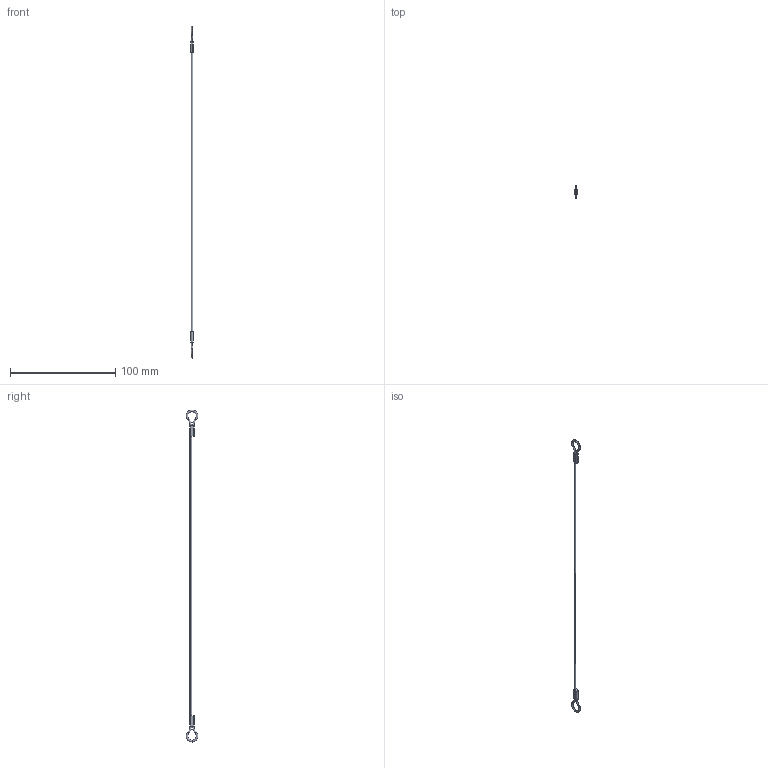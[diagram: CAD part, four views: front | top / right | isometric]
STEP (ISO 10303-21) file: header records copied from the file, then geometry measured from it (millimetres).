
FILE_DESCRIPTION (( 'STEP AP203' ), '1' );
FILE_NAME ('LA1065.I04-304G1.step', '2026-03-23T15:42:41', ( '' ), ( '' ), 'SwSTEP 2.0', 'SolidWorks 2019', '' );
FILE_SCHEMA (( 'CONFIG_CONTROL_DESIGN' ));
Length unit declared in the file: millimetre
Products named in the file (1): LA1065.I04-304G1
Bounding box: 2.4 x 11.18 x 315.97 mm (x, y, z)
Volume: 870 mm3; surface area: 1956.7 mm2
Topology: 1 solids, 1 shells, 30 faces, 68 edges, 42 vertices
Faces by surface type: torus 14, cylinder 8, plane 8
Entity records: 945 total; most frequent: DIRECTION 178, CARTESIAN_POINT 141, ORIENTED_EDGE 136, AXIS2_PLACEMENT_3D 79, EDGE_CURVE 68, CIRCLE 48, VERTEX_POINT 42, EDGE_LOOP 36
